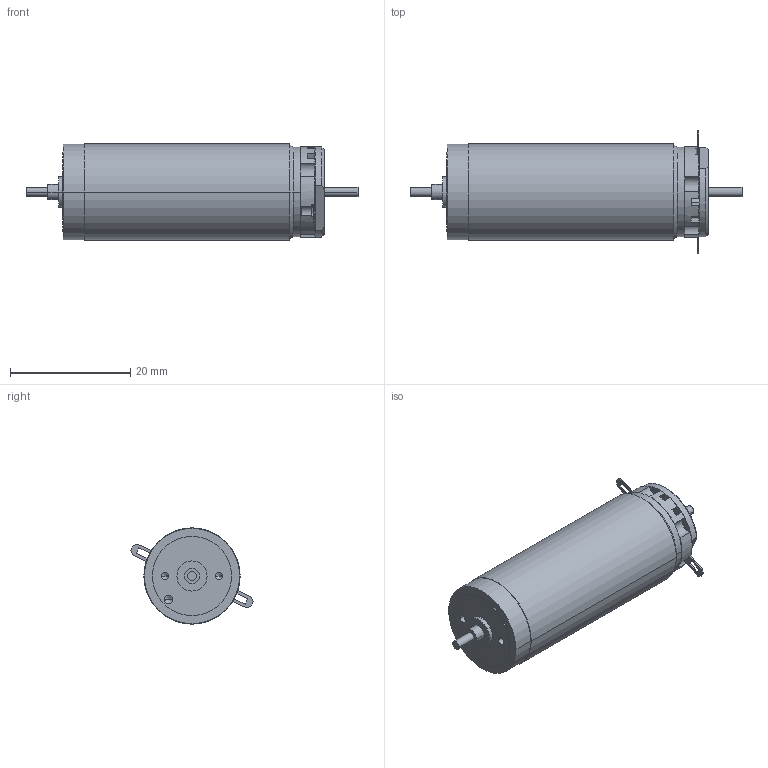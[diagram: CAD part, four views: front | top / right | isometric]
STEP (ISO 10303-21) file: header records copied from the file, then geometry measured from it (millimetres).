
FILE_DESCRIPTION((''),'2;1');
FILE_NAME('118725','2016-10-10T',('mmagvisi'),(''),'CREO PARAMETRIC BY PTC INC, 2016050','CREO PARAMETRIC BY PTC INC, 2016050','');
FILE_SCHEMA(('CONFIG_CONTROL_DESIGN'));
Length unit declared in the file: millimetre
Products named in the file (1): 118725
Bounding box: 55.15 x 20.28 x 16 mm (x, y, z)
Volume: 8434.5 mm3; surface area: 3212.2 mm2
Topology: 3 solids, 3 shells, 259 faces, 656 edges, 419 vertices
Faces by surface type: plane 155, cylinder 94, cone 10
Entity records: 9869 total; most frequent: DIRECTION 1407, CARTESIAN_POINT 1344, ORIENTED_EDGE 1300, PRESENTATION_STYLE_ASSIGNMENT 653, STYLED_ITEM 653, CURVE_STYLE 650, EDGE_CURVE 650, AXIS2_PLACEMENT_3D 502
